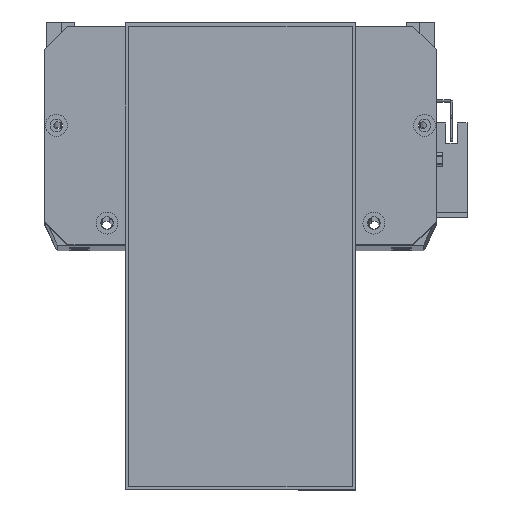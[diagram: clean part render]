
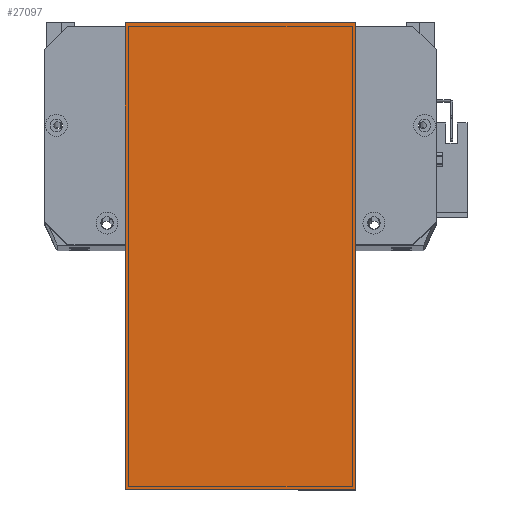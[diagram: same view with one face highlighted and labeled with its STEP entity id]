
A CAD part, top view. The second image highlights one B-rep face of the part: STEP entity #27097.
In plain terms, the highlighted planar face has unit normal (0, 0, 1) as drawn and (0, 0, -1) by its records, which use the part's own axes.
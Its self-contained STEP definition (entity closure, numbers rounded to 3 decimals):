
#156 = ORIENTED_EDGE ( 'NONE', *, *, #548, .T. ) ;
#548 = EDGE_CURVE ( 'NONE', #2793, #7944, #11786, .T. ) ;
#1949 = CARTESIAN_POINT ( 'NONE',  ( 203., 119.5, 0. ) ) ;
#2153 = VERTEX_POINT ( 'NONE', #17727 ) ;
#2519 = CARTESIAN_POINT ( 'NONE',  ( 0., 0., 0. ) ) ;
#2793 = VERTEX_POINT ( 'NONE', #3273 ) ;
#3273 = CARTESIAN_POINT ( 'NONE',  ( 0., 119.5, 0. ) ) ;
#3859 = DIRECTION ( 'NONE',  ( 0., 1., 0. ) ) ;
#4907 = DIRECTION ( 'NONE',  ( 1., 0., 0. ) ) ;
#4947 = DIRECTION ( 'NONE',  ( 0., -1., 0. ) ) ;
#5668 = VECTOR ( 'NONE', #22003, 1000. ) ;
#7944 = VERTEX_POINT ( 'NONE', #1949 ) ;
#8227 = DIRECTION ( 'NONE',  ( 0., 0., -1. ) ) ;
#11333 = LINE ( 'NONE', #26843, #22893 ) ;
#11786 = LINE ( 'NONE', #15034, #5668 ) ;
#12562 = AXIS2_PLACEMENT_3D ( 'NONE', #22077, #8227, #24383 ) ;
#12947 = CARTESIAN_POINT ( 'NONE',  ( 203., 19.5, 0. ) ) ;
#14125 = VECTOR ( 'NONE', #4907, 1000. ) ;
#14622 = ORIENTED_EDGE ( 'NONE', *, *, #15133, .F. ) ;
#15018 = PLANE ( 'NONE',  #12562 ) ;
#15034 = CARTESIAN_POINT ( 'NONE',  ( -12., 119.5, 0. ) ) ;
#15133 = EDGE_CURVE ( 'NONE', #17833, #7944, #11333, .T. ) ;
#15670 = FACE_OUTER_BOUND ( 'NONE', #27451, .T. ) ;
#17072 = ORIENTED_EDGE ( 'NONE', *, *, #22137, .F. ) ;
#17727 = CARTESIAN_POINT ( 'NONE',  ( 0., 19.5, 0. ) ) ;
#17833 = VERTEX_POINT ( 'NONE', #12947 ) ;
#18694 = LINE ( 'NONE', #2519, #22647 ) ;
#20266 = LINE ( 'NONE', #21044, #14125 ) ;
#21044 = CARTESIAN_POINT ( 'NONE',  ( -12., 19.5, 0. ) ) ;
#22003 = DIRECTION ( 'NONE',  ( 1., 0., 0. ) ) ;
#22077 = CARTESIAN_POINT ( 'NONE',  ( 0., 0., 0. ) ) ;
#22137 = EDGE_CURVE ( 'NONE', #2153, #17833, #20266, .T. ) ;
#22647 = VECTOR ( 'NONE', #4947, 1000. ) ;
#22893 = VECTOR ( 'NONE', #3859, 1000. ) ;
#24112 = ORIENTED_EDGE ( 'NONE', *, *, #25177, .F. ) ;
#24383 = DIRECTION ( 'NONE',  ( -1., 0., 0. ) ) ;
#25177 = EDGE_CURVE ( 'NONE', #2793, #2153, #18694, .T. ) ;
#26843 = CARTESIAN_POINT ( 'NONE',  ( 203., 0., 0. ) ) ;
#27097 = ADVANCED_FACE ( 'NONE', ( #15670 ), #15018, .T. ) ;
#27451 = EDGE_LOOP ( 'NONE', ( #17072, #24112, #156, #14622 ) ) ;
